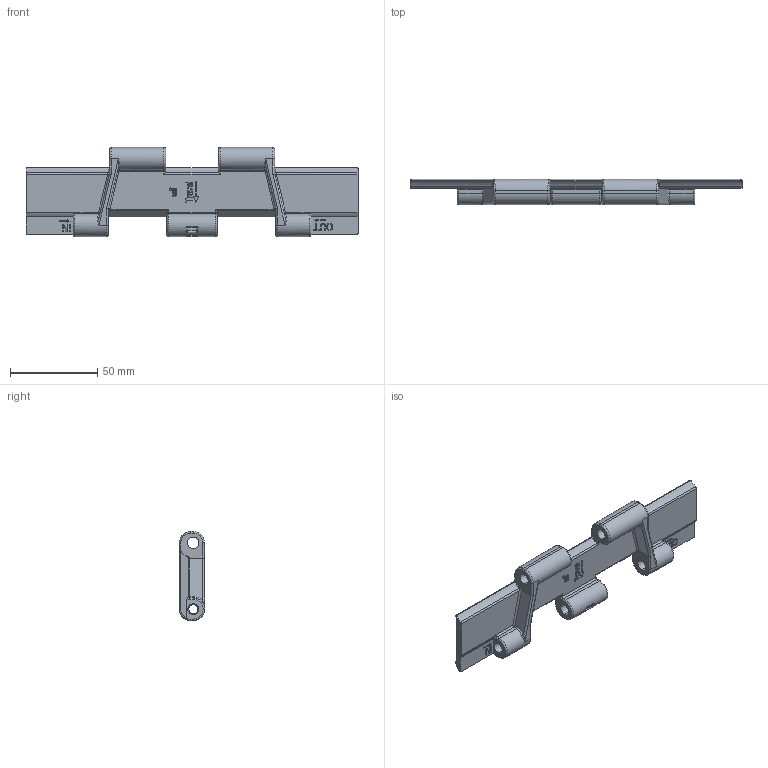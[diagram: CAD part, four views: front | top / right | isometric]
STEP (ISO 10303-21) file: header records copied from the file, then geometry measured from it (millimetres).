
FILE_DESCRIPTION((''),'2;1');
FILE_NAME('P371','2012-06-27T',('jas'),(''),'PRO/ENGINEER BY PARAMETRIC TECHNOLOGY CORPORATION, 2012130','PRO/ENGINEER BY PARAMETRIC TECHNOLOGY CORPORATION, 2012130','');
FILE_SCHEMA(('AUTOMOTIVE_DESIGN { 1 0 10303 214 1 1 1 1 }'));
Length unit declared in the file: millimetre
Products named in the file (1): P371
Bounding box: 190.5 x 14.46 x 51.1 mm (x, y, z)
Volume: 45387.6 mm3; surface area: 22522.4 mm2
Topology: 1 solids, 1 shells, 708 faces, 1909 edges, 1234 vertices
Faces by surface type: plane 528, cylinder 112, bspline 48, torus 10, sphere 6, cone 4
Entity records: 28738 total; most frequent: CARTESIAN_POINT 10964, ORIENTED_EDGE 3818, DIRECTION 3285, EDGE_CURVE 1909, VECTOR 1581, LINE 1581, VERTEX_POINT 1234, AXIS2_PLACEMENT_3D 852
